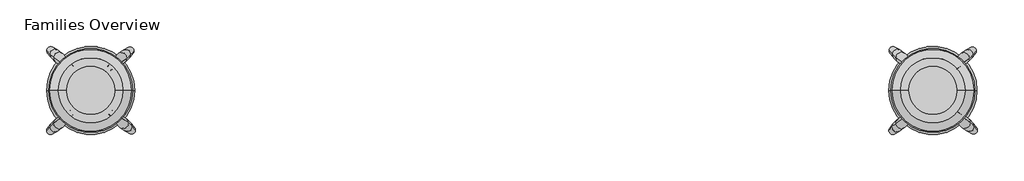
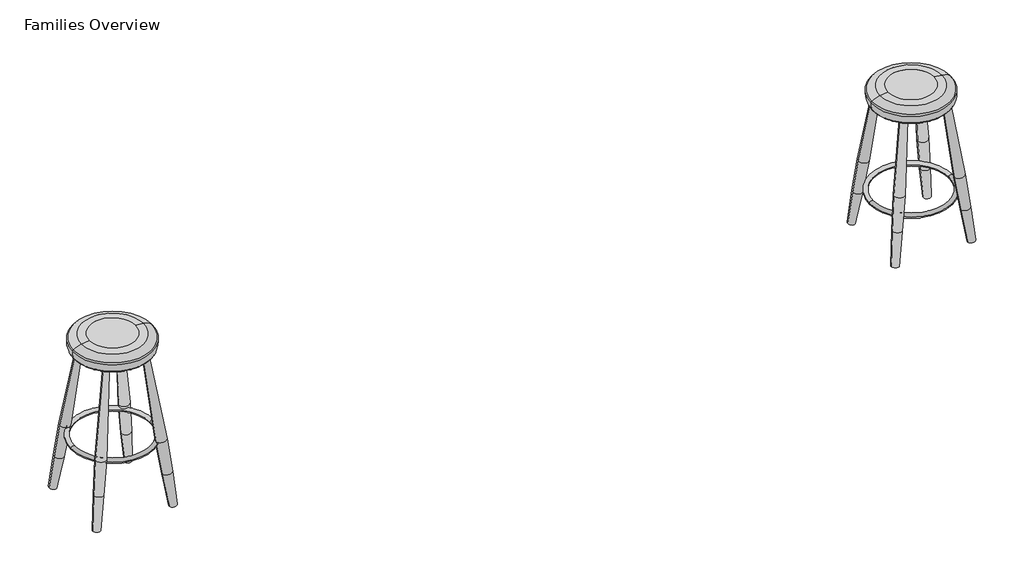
# One storey: 2 furniture elements.
"""IFC4 building model written with IfcOpenShell, lengths in millimetres."""

from ifc_helpers import new_model, si_unit, origin, place, context, project, spatial, transform, mapped, element, save
from components import ch56_47536423, ch58_51923f9c

model = new_model("IFC4")

# Units and contexts
model_context = context("Model", 3, world=origin())
ifc_project = project(units=[si_unit("LENGTHUNIT", "METRE", prefix="MILLI")], contexts=[model_context])

# Site, building, storey
site = spatial("IfcSite", under=ifc_project)
building = spatial("IfcBuilding", under=site)
storey = spatial("IfcBuildingStorey", under=building, Name="Families Overview", Elevation=0.0)

# Furniture
placement = place(None, origin())
ch56_shape = ch56_47536423(model_context)
element("IfcFurniture", 1, ObjectType="CarlHansen_Seating_Stool_CH56-CH58Barstool : CH56", at=placement, inside=storey, context=model_context, shape_type="MappedRepresentation", body=[
    mapped(ch56_shape, transform((-58302.8787585, 9407.7777348, 0.0), x_axis=(1.0, 0.0, 0.0), y_axis=(0.0, 1.0, 0.0), z_axis=(0.0, 0.0, 1.0))),
])
ch58_shape = ch58_51923f9c(model_context)
element("IfcFurniture", 2, ObjectType="CarlHansen_Seating_Stool_CH56-CH58Barstool : CH58", at=placement, inside=storey, context=model_context, shape_type="MappedRepresentation", body=[
    mapped(ch58_shape, transform((-54797.6787585, 9407.7777348, 0.0), x_axis=(1.0, 0.0, 0.0), y_axis=(0.0, 1.0, 0.0), z_axis=(0.0, 0.0, 1.0))),
])

save(model, "model.ifc")
